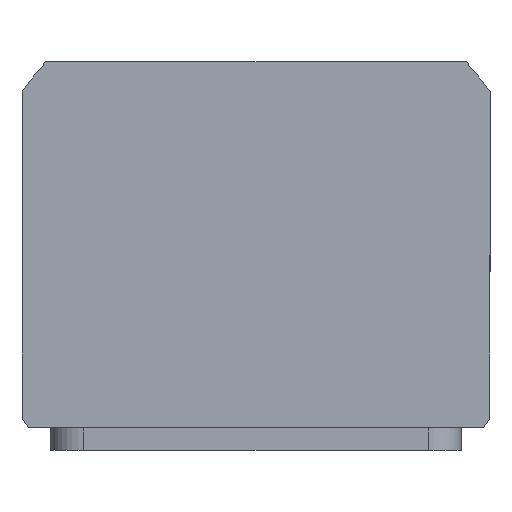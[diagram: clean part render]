
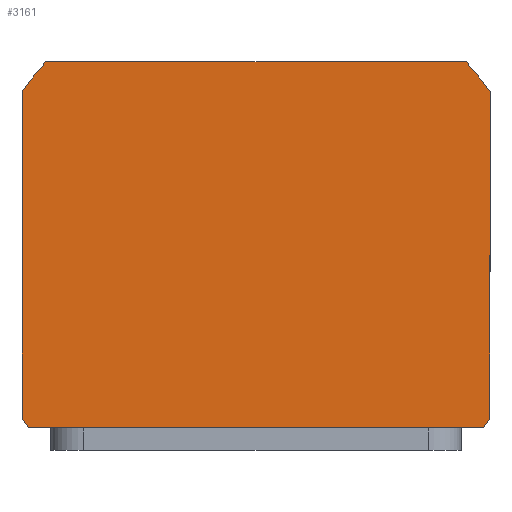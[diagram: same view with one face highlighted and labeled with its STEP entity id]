
A CAD part, top view. The second image highlights one B-rep face of the part: STEP entity #3161.
In plain terms, the highlighted planar face has unit normal (0, 0, 1) as drawn and (0, 0, -1) by its records, which use the part's own axes.
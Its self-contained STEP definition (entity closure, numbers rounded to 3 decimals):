
#265 = CARTESIAN_POINT ( 'NONE',  ( 57., 42.275, 0. ) ) ;
#728 = DIRECTION ( 'NONE',  ( 0., 0., 1. ) ) ;
#1164 = CARTESIAN_POINT ( 'NONE',  ( 57., -37.255, 0. ) ) ;
#1825 = EDGE_CURVE ( 'NONE', #21135, #8880, #4575, .T. ) ;
#2326 = AXIS2_PLACEMENT_3D ( 'NONE', #20911, #10310, #22673 ) ;
#3161 = ADVANCED_FACE ( 'NONE', ( #20166 ), #3652, .F. ) ;
#3652 = PLANE ( 'NONE',  #21044 ) ;
#3887 = VERTEX_POINT ( 'NONE', #18791 ) ;
#4029 = EDGE_CURVE ( 'NONE', #16653, #3887, #10806, .T. ) ;
#4178 = VERTEX_POINT ( 'NONE', #10983 ) ;
#4313 = DIRECTION ( 'NONE',  ( 0., 0., 1. ) ) ;
#4575 = CIRCLE ( 'NONE', #5304, 69.5 ) ;
#4690 = EDGE_CURVE ( 'NONE', #10277, #16653, #6903, .T. ) ;
#4733 = DIRECTION ( 'NONE',  ( 1., 0., 0. ) ) ;
#4955 = EDGE_CURVE ( 'NONE', #8880, #22881, #19378, .T. ) ;
#5304 = AXIS2_PLACEMENT_3D ( 'NONE', #14920, #4313, #16700 ) ;
#6348 = ORIENTED_EDGE ( 'NONE', *, *, #11001, .F. ) ;
#6394 = DIRECTION ( 'NONE',  ( 0., 1., 0. ) ) ;
#6432 = CARTESIAN_POINT ( 'NONE',  ( 0., 2.51, 0. ) ) ;
#6903 = LINE ( 'NONE', #11752, #20478 ) ;
#7560 = CARTESIAN_POINT ( 'NONE',  ( -55.382, 44.5, 0. ) ) ;
#7990 = DIRECTION ( 'NONE',  ( 1., 0., 0. ) ) ;
#8221 = DIRECTION ( 'NONE',  ( 1., 0., 0. ) ) ;
#8323 = EDGE_LOOP ( 'NONE', ( #11312, #21288, #21694, #22941, #6348, #17496, #19899, #17386 ) ) ;
#8522 = LINE ( 'NONE', #22909, #21538 ) ;
#8800 = DIRECTION ( 'NONE',  ( 0., -1., 0. ) ) ;
#8880 = VERTEX_POINT ( 'NONE', #20970 ) ;
#10277 = VERTEX_POINT ( 'NONE', #1164 ) ;
#10291 = EDGE_CURVE ( 'NONE', #16755, #4178, #15059, .T. ) ;
#10310 = DIRECTION ( 'NONE',  ( 0., 0., 1. ) ) ;
#10806 = CIRCLE ( 'NONE', #2326, 69.5 ) ;
#10983 = CARTESIAN_POINT ( 'NONE',  ( 51.189, -44.5, 0. ) ) ;
#11001 = EDGE_CURVE ( 'NONE', #22881, #16755, #14764, .T. ) ;
#11005 = CARTESIAN_POINT ( 'NONE',  ( -51.189, -44.5, 0. ) ) ;
#11312 = ORIENTED_EDGE ( 'NONE', *, *, #4029, .F. ) ;
#11333 = CARTESIAN_POINT ( 'NONE',  ( 0., 2.51, 0. ) ) ;
#11752 = CARTESIAN_POINT ( 'NONE',  ( 57., 44.5, 0. ) ) ;
#11764 = CARTESIAN_POINT ( 'NONE',  ( -57., -44.5, 0. ) ) ;
#12692 = CARTESIAN_POINT ( 'NONE',  ( -57., -37.255, 0. ) ) ;
#13107 = DIRECTION ( 'NONE',  ( 1., 0., 0. ) ) ;
#13305 = AXIS2_PLACEMENT_3D ( 'NONE', #11333, #728, #13107 ) ;
#14764 = CIRCLE ( 'NONE', #15315, 69.5 ) ;
#14920 = CARTESIAN_POINT ( 'NONE',  ( 0., 2.51, 0. ) ) ;
#15059 = LINE ( 'NONE', #11764, #18640 ) ;
#15315 = AXIS2_PLACEMENT_3D ( 'NONE', #6432, #18836, #8221 ) ;
#15943 = CARTESIAN_POINT ( 'NONE',  ( -57., 44.5, 0. ) ) ;
#16049 = CIRCLE ( 'NONE', #13305, 69.5 ) ;
#16653 = VERTEX_POINT ( 'NONE', #265 ) ;
#16700 = DIRECTION ( 'NONE',  ( 1., 0., 0. ) ) ;
#16755 = VERTEX_POINT ( 'NONE', #11005 ) ;
#17386 = ORIENTED_EDGE ( 'NONE', *, *, #17548, .F. ) ;
#17496 = ORIENTED_EDGE ( 'NONE', *, *, #4955, .F. ) ;
#17548 = EDGE_CURVE ( 'NONE', #3887, #21135, #8522, .T. ) ;
#17835 = EDGE_CURVE ( 'NONE', #4178, #10277, #16049, .T. ) ;
#18603 = DIRECTION ( 'NONE',  ( 0., 0., 1. ) ) ;
#18640 = VECTOR ( 'NONE', #4733, 1000. ) ;
#18791 = CARTESIAN_POINT ( 'NONE',  ( 55.382, 44.5, 0. ) ) ;
#18836 = DIRECTION ( 'NONE',  ( 0., 0., 1. ) ) ;
#19338 = DIRECTION ( 'NONE',  ( -1., 0., 0. ) ) ;
#19378 = LINE ( 'NONE', #15943, #19908 ) ;
#19899 = ORIENTED_EDGE ( 'NONE', *, *, #1825, .F. ) ;
#19908 = VECTOR ( 'NONE', #8800, 1000. ) ;
#20166 = FACE_OUTER_BOUND ( 'NONE', #8323, .T. ) ;
#20232 = CARTESIAN_POINT ( 'NONE',  ( 0., 0., 0. ) ) ;
#20478 = VECTOR ( 'NONE', #6394, 1000. ) ;
#20911 = CARTESIAN_POINT ( 'NONE',  ( 0., 2.51, 0. ) ) ;
#20970 = CARTESIAN_POINT ( 'NONE',  ( -57., 42.275, 0. ) ) ;
#21044 = AXIS2_PLACEMENT_3D ( 'NONE', #20232, #18603, #7990 ) ;
#21135 = VERTEX_POINT ( 'NONE', #7560 ) ;
#21288 = ORIENTED_EDGE ( 'NONE', *, *, #4690, .F. ) ;
#21538 = VECTOR ( 'NONE', #19338, 1000. ) ;
#21694 = ORIENTED_EDGE ( 'NONE', *, *, #17835, .F. ) ;
#22673 = DIRECTION ( 'NONE',  ( 1., 0., 0. ) ) ;
#22881 = VERTEX_POINT ( 'NONE', #12692 ) ;
#22909 = CARTESIAN_POINT ( 'NONE',  ( -57., 44.5, 0. ) ) ;
#22941 = ORIENTED_EDGE ( 'NONE', *, *, #10291, .F. ) ;
